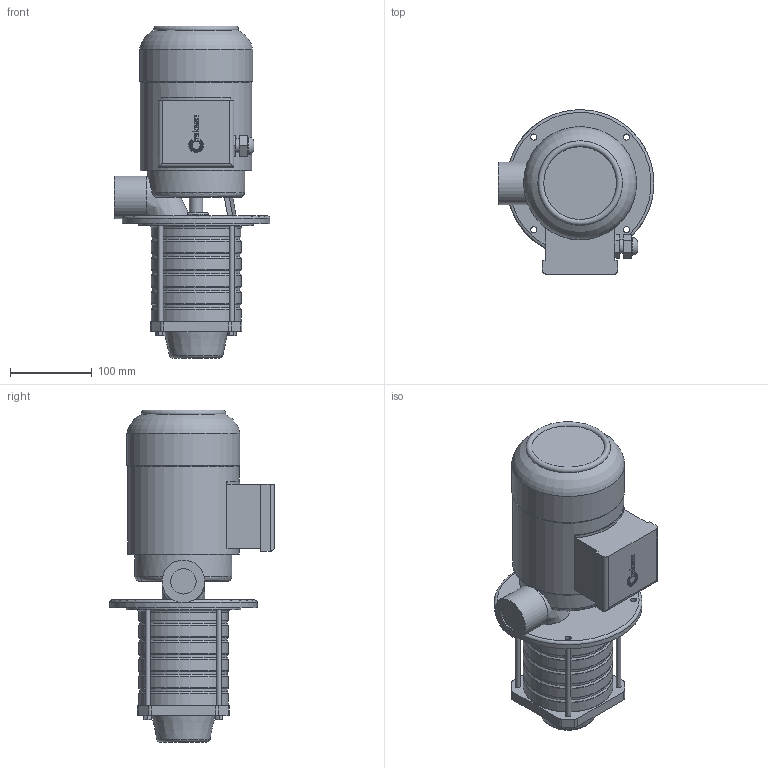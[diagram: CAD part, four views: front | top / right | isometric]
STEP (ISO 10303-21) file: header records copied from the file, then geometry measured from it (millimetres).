
FILE_DESCRIPTION(/* description */ ('Unknown'),/* implementation_level */ '2;1');
FILE_NAME(/* name */ 'hda04',/* time_stamp */ '2025-06-17T14:57:56+03:00',/* author */ ('Unknown'),/* organization */ ('Unknown'),/* preprocessor_version */ 'ST-DEVELOPER v16.7',/* originating_system */ 'DEX',/* authorisation */ $);
FILE_SCHEMA (('AUTOMOTIVE_DESIGN {1 0 10303 214 3 1 1}'));
Length unit declared in the file: millimetre
Products named in the file (1): hda04
Bounding box: 190 x 201 x 405.06 mm (x, y, z)
Volume: 4992612.9 mm3; surface area: 266759.8 mm2
Topology: 1 solids, 1 shells, 249 faces, 627 edges, 412 vertices
Faces by surface type: plane 106, bspline 66, cylinder 50, torus 20, cone 7
Full cylindrical faces by diameter (mm): 6 x4, 7.5 x4, 16.3 x1, 17 x1, 21.5 x1, 31 x1, 52 x1, 106.5 x5, 109.25 x1, 109.6 x5, 118.6 x1, 136.186 x1, 137.994 x1, 139.6 x1, 180 x1
Entity records: 9505 total; most frequent: CARTESIAN_POINT 4135, ORIENTED_EDGE 1120, DIRECTION 902, EDGE_CURVE 560, VERTEX_POINT 397, EDGE_LOOP 353, FACE_BOUND 353, AXIS2_PLACEMENT_3D 308
